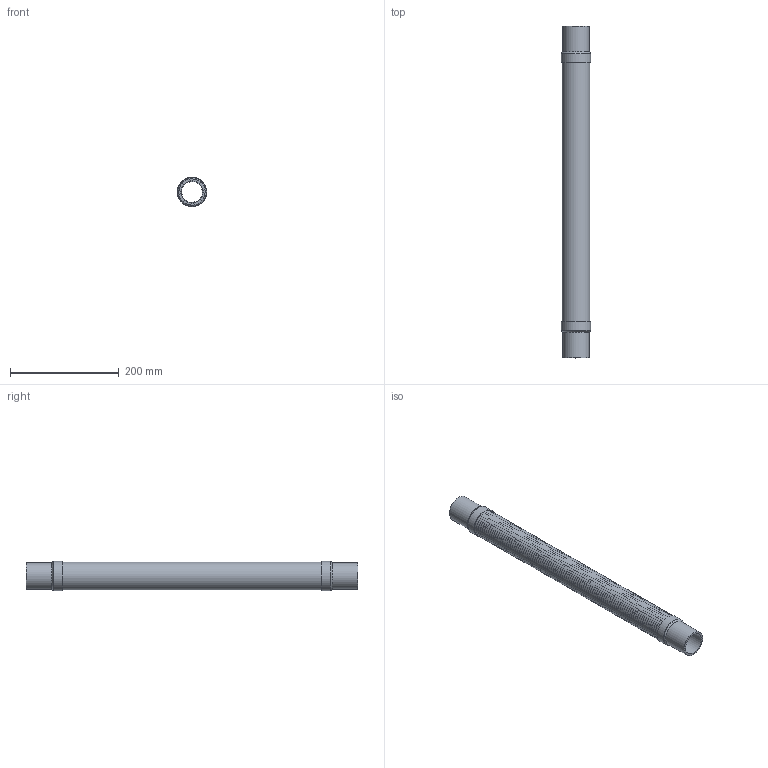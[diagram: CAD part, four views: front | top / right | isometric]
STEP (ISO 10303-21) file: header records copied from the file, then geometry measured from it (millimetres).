
FILE_DESCRIPTION((''),'2;1');
FILE_NAME('C:\2012_Work\Designs\MN\MN-1.5x24.stp','2013-08-09T17:10:40',('KShiels'),(''),'Autodesk Inventor 2012','Autodesk Inventor 2012','');
FILE_SCHEMA(('AUTOMOTIVE_DESIGN { 1 0 10303 214 1 1 1 1 }'));
Length unit declared in the file: inch
Products named in the file (6): MN-1; MN-1_Welds; A-30098-5-1; A-30098-5_1
Assembly tree (7 placements, depth 2):
  MN-1
    MN-1_Welds
    A-30098-5-1
    A-30098-5_1  x2
    A-30098-5_1  x2
    A-30098-5_1
Bounding box: 53.79 x 609.6 x 53.79 mm (x, y, z)
Volume: 152064.9 mm3; surface area: 645218 mm2
Topology: 8 solids, 8 shells, 870 faces, 1312 edges, 876 vertices
Faces by surface type: plane 434, torus 422, cylinder 12, bspline 2
Full cylindrical faces by diameter (mm): 40.894 x2, 48.26 x4, 50.8 x1, 51.41 x3, 53.791 x2
Entity records: 17998 total; most frequent: DIRECTION 3462, CARTESIAN_POINT 3109, ORIENTED_EDGE 1736, AXIS2_PLACEMENT_3D 1731, EDGE_LOOP 1722, EDGE_CURVE 868, VERTEX_POINT 866, FACE_OUTER_BOUND 862
